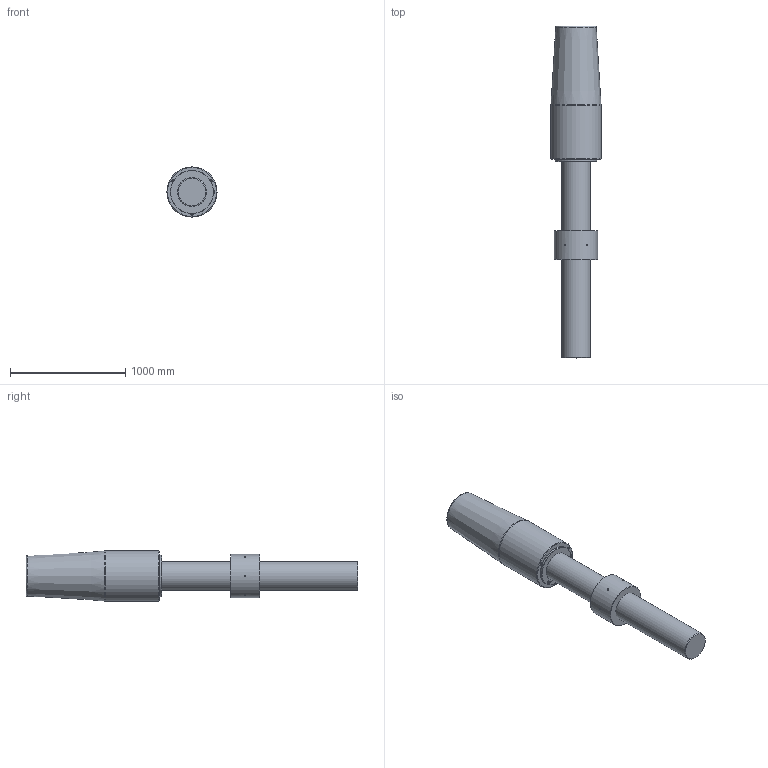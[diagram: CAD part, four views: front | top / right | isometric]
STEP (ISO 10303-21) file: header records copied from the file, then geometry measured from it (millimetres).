
FILE_DESCRIPTION(/* description */ (''),/* implementation_level */ '2;1');
FILE_NAME(/* name */ 'D:\Clienti\Redaelli (inventor)\CYB\STEP\Arrangement\CYB152 52 061 0.stp',/* time_stamp */ '2021-05-08T15:05:14+02:00',/* author */ ('fabri'),/* organization */ (''),/* preprocessor_version */ 'ST-DEVELOPER v16.13',/* originating_system */ 'Autodesk Inventor 2018',/* authorisation */ '');
FILE_SCHEMA (('AUTOMOTIVE_DESIGN { 1 0 10303 214 3 1 1 }'));
Length unit declared in the file: millimetre
Products named in the file (5): CYB152 52 061 0; RNT052 41 051 0_ROD; RNT052 41 051 0_ROD_1; CCY021-51-061-0_BUSH; CCY021-51-061-0
Assembly tree (4 placements, depth 2):
  CYB152 52 061 0
    RNT052 41 051 0_ROD
    RNT052 41 051 0_ROD_1
    CCY021-51-061-0_BUSH
    CCY021-51-061-0
Bounding box: 435 x 2879 x 435 mm (x, y, z)
Volume: 279189353.3 mm3; surface area: 4666523.8 mm2
Topology: 4 solids, 4 shells, 707 faces, 1920 edges, 1275 vertices
Faces by surface type: bspline 336, plane 333, cylinder 18, cone 16, torus 4
Full cylindrical faces by diameter (mm): 15 x6, 20.752 x3, 241.34 x2, 250 x1, 252 x1, 314 x1, 330 x1, 360 x1, 375 x1, 435 x1
Entity records: 23936 total; most frequent: CARTESIAN_POINT 8445, ORIENTED_EDGE 3742, DIRECTION 1991, EDGE_CURVE 1871, VERTEX_POINT 1265, LINE 1145, VECTOR 1145, EDGE_LOOP 804
